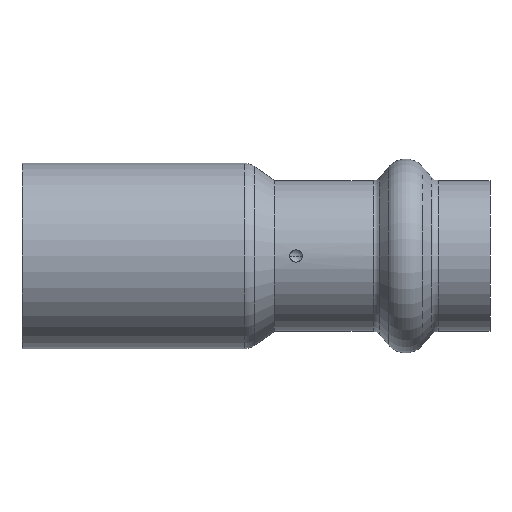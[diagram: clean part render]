
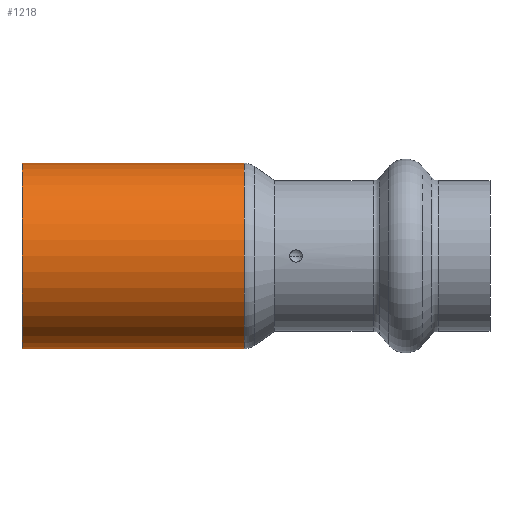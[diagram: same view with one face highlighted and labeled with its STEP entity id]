
A CAD part, front view. The second image highlights one B-rep face of the part: STEP entity #1218.
In plain terms, the highlighted cylindrical face has radius 11 mm (diameter 22 mm), a partial arc.
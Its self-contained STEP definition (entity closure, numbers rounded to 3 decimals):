
#5 = ORIENTED_EDGE ( 'NONE', *, *, #672, .F. ) ;
#9 = CIRCLE ( 'NONE', #1156, 11. ) ;
#34 = EDGE_CURVE ( 'NONE', #396, #1446, #9, .T. ) ;
#77 = CARTESIAN_POINT ( 'NONE',  ( 26.369, 0., -11. ) ) ;
#83 = CARTESIAN_POINT ( 'NONE',  ( 26.369, 0., 0. ) ) ;
#92 = DIRECTION ( 'NONE',  ( -1., 0., 0. ) ) ;
#97 = DIRECTION ( 'NONE',  ( -1., 0., 0. ) ) ;
#105 = DIRECTION ( 'NONE',  ( 0., 0., -1. ) ) ;
#123 = CYLINDRICAL_SURFACE ( 'NONE', #624, 11. ) ;
#125 = VECTOR ( 'NONE', #763, 1000. ) ;
#264 = CARTESIAN_POINT ( 'NONE',  ( 0., 0., 11. ) ) ;
#277 = ORIENTED_EDGE ( 'NONE', *, *, #34, .F. ) ;
#304 = CARTESIAN_POINT ( 'NONE',  ( -4.079, 0., 0. ) ) ;
#317 = DIRECTION ( 'NONE',  ( -1., 0., 0. ) ) ;
#396 = VERTEX_POINT ( 'NONE', #781 ) ;
#416 = LINE ( 'NONE', #725, #125 ) ;
#448 = DIRECTION ( 'NONE',  ( 0., 0., 1. ) ) ;
#452 = LINE ( 'NONE', #1353, #1344 ) ;
#478 = CARTESIAN_POINT ( 'NONE',  ( 0., 0., 0. ) ) ;
#482 = DIRECTION ( 'NONE',  ( -1., 0., 0. ) ) ;
#559 = EDGE_CURVE ( 'NONE', #601, #1201, #1184, .T. ) ;
#601 = VERTEX_POINT ( 'NONE', #77 ) ;
#624 = AXIS2_PLACEMENT_3D ( 'NONE', #304, #92, #1008 ) ;
#672 = EDGE_CURVE ( 'NONE', #601, #396, #416, .T. ) ;
#725 = CARTESIAN_POINT ( 'NONE',  ( -4.079, 0., -11. ) ) ;
#738 = ORIENTED_EDGE ( 'NONE', *, *, #1214, .T. ) ;
#763 = DIRECTION ( 'NONE',  ( -1., 0., 0. ) ) ;
#781 = CARTESIAN_POINT ( 'NONE',  ( 0., 0., -11. ) ) ;
#935 = AXIS2_PLACEMENT_3D ( 'NONE', #83, #97, #105 ) ;
#1008 = DIRECTION ( 'NONE',  ( 0., 0., 1. ) ) ;
#1031 = EDGE_LOOP ( 'NONE', ( #5, #1256, #738, #277 ) ) ;
#1156 = AXIS2_PLACEMENT_3D ( 'NONE', #478, #482, #448 ) ;
#1184 = CIRCLE ( 'NONE', #935, 11. ) ;
#1201 = VERTEX_POINT ( 'NONE', #1476 ) ;
#1214 = EDGE_CURVE ( 'NONE', #1201, #1446, #452, .T. ) ;
#1218 = ADVANCED_FACE ( 'NONE', ( #1385 ), #123, .T. ) ;
#1256 = ORIENTED_EDGE ( 'NONE', *, *, #559, .T. ) ;
#1344 = VECTOR ( 'NONE', #317, 1000. ) ;
#1353 = CARTESIAN_POINT ( 'NONE',  ( -4.079, 0., 11. ) ) ;
#1385 = FACE_OUTER_BOUND ( 'NONE', #1031, .T. ) ;
#1446 = VERTEX_POINT ( 'NONE', #264 ) ;
#1476 = CARTESIAN_POINT ( 'NONE',  ( 26.369, 0., 11. ) ) ;
